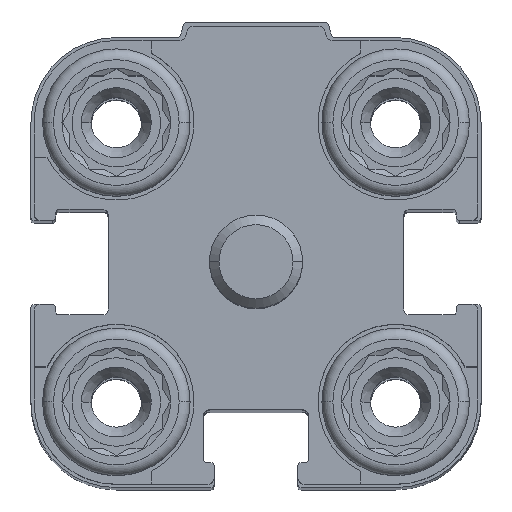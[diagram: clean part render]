
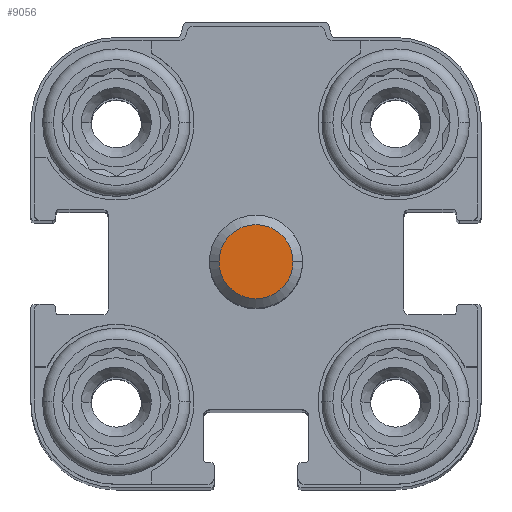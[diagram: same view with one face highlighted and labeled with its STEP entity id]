
A CAD part, top view. The second image highlights one B-rep face of the part: STEP entity #9056.
In plain terms, the highlighted planar face has unit normal (0, 0, 1).
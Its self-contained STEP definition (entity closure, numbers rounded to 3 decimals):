
#121 = CIRCLE ( 'NONE', #10691, 2.387 ) ;
#175 = DIRECTION ( 'NONE',  ( -1., 0., 0. ) ) ;
#567 = ORIENTED_EDGE ( 'NONE', *, *, #7798, .F. ) ;
#1056 = CARTESIAN_POINT ( 'NONE',  ( -2.387, 0., 20.5 ) ) ;
#3322 = CIRCLE ( 'NONE', #6750, 2.387 ) ;
#5593 = CARTESIAN_POINT ( 'NONE',  ( 0., 0., 20.5 ) ) ;
#6750 = AXIS2_PLACEMENT_3D ( 'NONE', #8243, #13548, #175 ) ;
#6848 = DIRECTION ( 'NONE',  ( 0., 0., -1. ) ) ;
#7057 = EDGE_LOOP ( 'NONE', ( #9107, #567 ) ) ;
#7112 = DIRECTION ( 'NONE',  ( 0., 1., 0. ) ) ;
#7198 = FACE_OUTER_BOUND ( 'NONE', #7057, .T. ) ;
#7798 = EDGE_CURVE ( 'NONE', #16937, #10712, #121, .T. ) ;
#8243 = CARTESIAN_POINT ( 'NONE',  ( 0., 0., 20.5 ) ) ;
#8445 = AXIS2_PLACEMENT_3D ( 'NONE', #5593, #6848, #7112 ) ;
#9056 = ADVANCED_FACE ( 'NONE', ( #7198 ), #16822, .F. ) ;
#9086 = DIRECTION ( 'NONE',  ( 0., 0., -1. ) ) ;
#9107 = ORIENTED_EDGE ( 'NONE', *, *, #9869, .F. ) ;
#9869 = EDGE_CURVE ( 'NONE', #10712, #16937, #3322, .T. ) ;
#10691 = AXIS2_PLACEMENT_3D ( 'NONE', #17548, #9086, #15026 ) ;
#10712 = VERTEX_POINT ( 'NONE', #1056 ) ;
#13548 = DIRECTION ( 'NONE',  ( 0., 0., -1. ) ) ;
#13850 = CARTESIAN_POINT ( 'NONE',  ( 2.387, 0., 20.5 ) ) ;
#15026 = DIRECTION ( 'NONE',  ( -1., 0., 0. ) ) ;
#16822 = PLANE ( 'NONE',  #8445 ) ;
#16937 = VERTEX_POINT ( 'NONE', #13850 ) ;
#17548 = CARTESIAN_POINT ( 'NONE',  ( 0., 0., 20.5 ) ) ;
